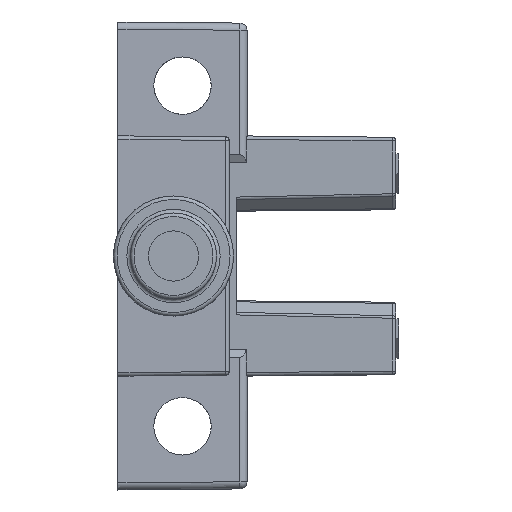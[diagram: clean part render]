
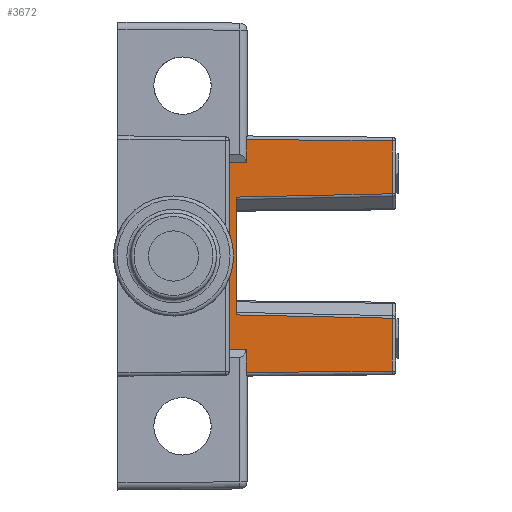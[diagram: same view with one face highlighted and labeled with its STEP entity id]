
A CAD part, left-side view. The second image highlights one B-rep face of the part: STEP entity #3672.
In plain terms, the highlighted planar face has unit normal (-1, 0.009, 0).
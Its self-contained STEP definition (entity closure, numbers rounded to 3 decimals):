
#492=FACE_OUTER_BOUND('',#745,.T.);
#745=EDGE_LOOP('',(#2897,#2898,#2899,#2900,#2901,#2902,#2903,#2904,#2905,
#2906,#2907,#2908));
#1060=LINE('',#5941,#1393);
#1064=LINE('',#5949,#1397);
#1071=LINE('',#5962,#1404);
#1072=LINE('',#5967,#1405);
#1073=LINE('',#5969,#1406);
#1074=LINE('',#5971,#1407);
#1075=LINE('',#5973,#1408);
#1076=LINE('',#5974,#1409);
#1077=LINE('',#5976,#1410);
#1078=LINE('',#5978,#1411);
#1079=LINE('',#5980,#1412);
#1080=LINE('',#5981,#1413);
#1393=VECTOR('',#4744,1.);
#1397=VECTOR('',#4750,1.);
#1404=VECTOR('',#4759,1.);
#1405=VECTOR('',#4764,1.);
#1406=VECTOR('',#4765,1.);
#1407=VECTOR('',#4766,1.);
#1408=VECTOR('',#4767,1.);
#1409=VECTOR('',#4768,1.);
#1410=VECTOR('',#4769,1.);
#1411=VECTOR('',#4770,1.);
#1412=VECTOR('',#4771,1.);
#1413=VECTOR('',#4772,1.);
#1746=VERTEX_POINT('',#5938);
#1747=VERTEX_POINT('',#5940);
#1750=VERTEX_POINT('',#5948);
#1755=VERTEX_POINT('',#5961);
#1756=VERTEX_POINT('',#5965);
#1757=VERTEX_POINT('',#5966);
#1758=VERTEX_POINT('',#5968);
#1759=VERTEX_POINT('',#5970);
#1760=VERTEX_POINT('',#5972);
#1761=VERTEX_POINT('',#5975);
#1762=VERTEX_POINT('',#5977);
#1763=VERTEX_POINT('',#5979);
#2150=EDGE_CURVE('',#1747,#1746,#1060,.T.);
#2154=EDGE_CURVE('',#1747,#1750,#1064,.T.);
#2161=EDGE_CURVE('',#1750,#1755,#1071,.T.);
#2163=EDGE_CURVE('',#1756,#1757,#1072,.T.);
#2164=EDGE_CURVE('',#1757,#1758,#1073,.T.);
#2165=EDGE_CURVE('',#1758,#1759,#1074,.T.);
#2166=EDGE_CURVE('',#1759,#1760,#1075,.T.);
#2167=EDGE_CURVE('',#1760,#1755,#1076,.T.);
#2168=EDGE_CURVE('',#1746,#1761,#1077,.T.);
#2169=EDGE_CURVE('',#1761,#1762,#1078,.T.);
#2170=EDGE_CURVE('',#1762,#1763,#1079,.T.);
#2171=EDGE_CURVE('',#1763,#1756,#1080,.T.);
#2897=ORIENTED_EDGE('',*,*,#2163,.T.);
#2898=ORIENTED_EDGE('',*,*,#2164,.T.);
#2899=ORIENTED_EDGE('',*,*,#2165,.T.);
#2900=ORIENTED_EDGE('',*,*,#2166,.T.);
#2901=ORIENTED_EDGE('',*,*,#2167,.T.);
#2902=ORIENTED_EDGE('',*,*,#2161,.F.);
#2903=ORIENTED_EDGE('',*,*,#2154,.F.);
#2904=ORIENTED_EDGE('',*,*,#2150,.T.);
#2905=ORIENTED_EDGE('',*,*,#2168,.T.);
#2906=ORIENTED_EDGE('',*,*,#2169,.T.);
#2907=ORIENTED_EDGE('',*,*,#2170,.T.);
#2908=ORIENTED_EDGE('',*,*,#2171,.T.);
#3525=PLANE('',#3985);
#3672=ADVANCED_FACE('',(#492),#3525,.T.);
#3985=AXIS2_PLACEMENT_3D('',#5964,#4762,#4763);
#4744=DIRECTION('',(-0.009,-1.,-0.016));
#4750=DIRECTION('',(0.,0.,1.));
#4759=DIRECTION('',(-0.009,-1.,0.016));
#4762=DIRECTION('center_axis',(-1.,0.009,0.));
#4763=DIRECTION('ref_axis',(-0.009,-1.,0.));
#4764=DIRECTION('',(0.,0.,1.));
#4765=DIRECTION('',(-0.009,-1.,0.021));
#4766=DIRECTION('',(0.,0.,1.));
#4767=DIRECTION('',(0.009,1.,0.009));
#4768=DIRECTION('',(0.,0.,-1.));
#4769=DIRECTION('',(0.,0.,-1.));
#4770=DIRECTION('',(-0.009,-1.,0.009));
#4771=DIRECTION('',(0.,0.,1.));
#4772=DIRECTION('',(0.009,1.,0.021));
#5938=CARTESIAN_POINT('',(13.429,0.786,-5.216));
#5940=CARTESIAN_POINT('',(13.438,1.749,-5.2));
#5941=CARTESIAN_POINT('',(13.439,1.834,-5.199));
#5948=CARTESIAN_POINT('',(13.438,1.749,5.2));
#5949=CARTESIAN_POINT('',(13.438,1.749,0.));
#5961=CARTESIAN_POINT('',(13.429,0.786,5.216));
#5962=CARTESIAN_POINT('',(13.438,1.749,5.2));
#5964=CARTESIAN_POINT('Origin',(13.438,1.749,0.));
#5965=CARTESIAN_POINT('',(13.434,1.349,-3.286));
#5966=CARTESIAN_POINT('',(13.434,1.349,3.286));
#5967=CARTESIAN_POINT('',(13.434,1.349,0.));
#5968=CARTESIAN_POINT('',(13.358,-7.349,3.47));
#5969=CARTESIAN_POINT('',(13.438,1.818,3.276));
#5970=CARTESIAN_POINT('',(13.358,-7.349,6.424));
#5971=CARTESIAN_POINT('',(13.358,-7.349,0.));
#5972=CARTESIAN_POINT('',(13.429,0.786,6.495));
#5973=CARTESIAN_POINT('',(13.437,1.693,6.503));
#5974=CARTESIAN_POINT('',(13.429,0.786,6.495));
#5975=CARTESIAN_POINT('',(13.429,0.786,-6.495));
#5976=CARTESIAN_POINT('',(13.429,0.786,-5.216));
#5977=CARTESIAN_POINT('',(13.358,-7.349,-6.424));
#5978=CARTESIAN_POINT('',(13.437,1.693,-6.503));
#5979=CARTESIAN_POINT('',(13.358,-7.349,-3.47));
#5980=CARTESIAN_POINT('',(13.358,-7.349,0.));
#5981=CARTESIAN_POINT('',(13.438,1.818,-3.276));
